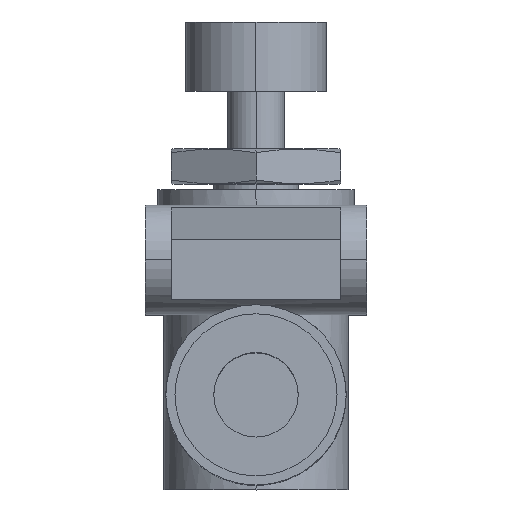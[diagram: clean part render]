
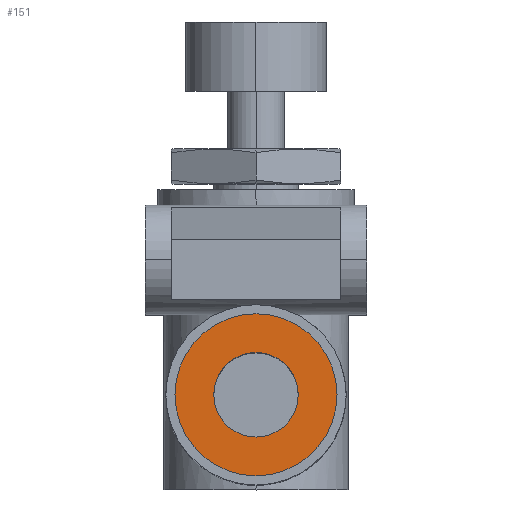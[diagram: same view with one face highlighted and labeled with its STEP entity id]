
A CAD part, top view. The second image highlights one B-rep face of the part: STEP entity #151.
In plain terms, the highlighted planar face has unit normal (0, 0, 1).
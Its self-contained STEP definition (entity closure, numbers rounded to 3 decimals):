
#151 = ADVANCED_FACE( '', ( #321, #322 ), #323, .T. );
#321 = FACE_BOUND( '', #494, .T. );
#322 = FACE_OUTER_BOUND( '', #495, .T. );
#323 = PLANE( '', #496 );
#494 = EDGE_LOOP( '', ( #1103, #1104 ) );
#495 = EDGE_LOOP( '', ( #1105, #1106 ) );
#496 = AXIS2_PLACEMENT_3D( '', #1107, #1108, #1109 );
#1103 = ORIENTED_EDGE( '', *, *, #1312, .F. );
#1104 = ORIENTED_EDGE( '', *, *, #1125, .F. );
#1105 = ORIENTED_EDGE( '', *, *, #1129, .T. );
#1106 = ORIENTED_EDGE( '', *, *, #1311, .T. );
#1107 = CARTESIAN_POINT( '', ( 0., 4.375, 26.6 ) );
#1108 = DIRECTION( '', ( 0., 0., 1. ) );
#1109 = DIRECTION( '', ( 0., 1., 0. ) );
#1125 = EDGE_CURVE( '', #1319, #1315, #1321, .T. );
#1129 = EDGE_CURVE( '', #1323, #1327, #1329, .T. );
#1311 = EDGE_CURVE( '', #1327, #1323, #1629, .T. );
#1312 = EDGE_CURVE( '', #1315, #1319, #1630, .T. );
#1315 = VERTEX_POINT( '', #1633 );
#1319 = VERTEX_POINT( '', #1638 );
#1321 = CIRCLE( '', #1641, 3. );
#1323 = VERTEX_POINT( '', #1643 );
#1327 = VERTEX_POINT( '', #1648 );
#1329 = CIRCLE( '', #1651, 5.75 );
#1629 = CIRCLE( '', #2821, 5.75 );
#1630 = CIRCLE( '', #2822, 3. );
#1633 = CARTESIAN_POINT( '', ( 0., 3., 26.6 ) );
#1638 = CARTESIAN_POINT( '', ( 0., -3., 26.6 ) );
#1641 = AXIS2_PLACEMENT_3D( '', #2829, #2830, #2831 );
#1643 = CARTESIAN_POINT( '', ( 0., 5.75, 26.6 ) );
#1648 = CARTESIAN_POINT( '', ( 0., -5.75, 26.6 ) );
#1651 = AXIS2_PLACEMENT_3D( '', #2837, #2838, #2839 );
#2821 = AXIS2_PLACEMENT_3D( '', #3119, #3120, #3121 );
#2822 = AXIS2_PLACEMENT_3D( '', #3122, #3123, #3124 );
#2829 = CARTESIAN_POINT( '', ( 0., 0., 26.6 ) );
#2830 = DIRECTION( '', ( 0., 0., 1. ) );
#2831 = DIRECTION( '', ( 0., 1., 0. ) );
#2837 = CARTESIAN_POINT( '', ( 0., 0., 26.6 ) );
#2838 = DIRECTION( '', ( 0., 0., 1. ) );
#2839 = DIRECTION( '', ( 0., 1., 0. ) );
#3119 = CARTESIAN_POINT( '', ( 0., 0., 26.6 ) );
#3120 = DIRECTION( '', ( 0., 0., 1. ) );
#3121 = DIRECTION( '', ( 0., 1., 0. ) );
#3122 = CARTESIAN_POINT( '', ( 0., 0., 26.6 ) );
#3123 = DIRECTION( '', ( 0., 0., 1. ) );
#3124 = DIRECTION( '', ( 0., 1., 0. ) );
